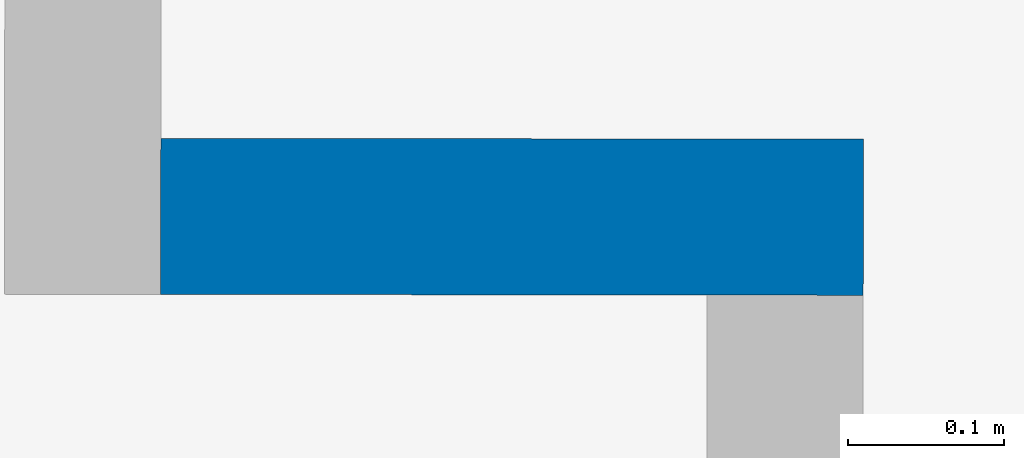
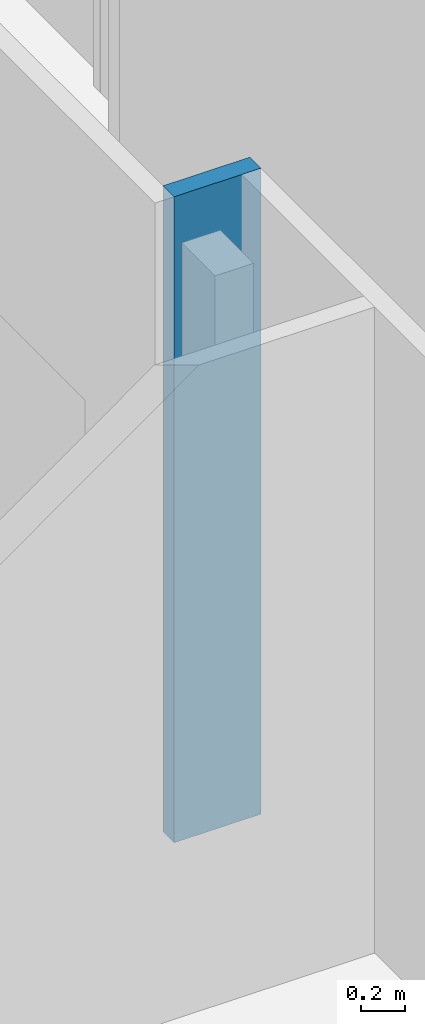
# One storey, part 82 of 101: 1 wall.
"""IFC2X3 building model written with IfcOpenShell, lengths in metres."""

from ifc_helpers import new_model, entity, si_unit, converted_unit, derived_unit, direction, frame, frame_2d, origin, place, context, subcontext, project, spatial, rectangle, extrude, material, layer, layer_set, layer_usage, type_object, element, save


model = new_model("IFC2X3")

# Units and contexts
model_context = context("Model", 3, precision=1e-05, world=origin(), true_north=direction((6.123233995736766e-17, 1.0)))
body_context = subcontext(model_context, "Body", "Model", "MODEL_VIEW")
ifc_project = project(units=[si_unit("LENGTHUNIT", "METRE"), si_unit("AREAUNIT", "SQUARE_METRE"), converted_unit("PLANEANGLEUNIT", "DEGREE", entity("IfcPlaneAngleMeasure", 0.017453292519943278), si_unit("PLANEANGLEUNIT", "RADIAN"), dimensions=[0, 0, 0, 0, 0, 0, 0]), derived_unit("THERMALTRANSMITTANCEUNIT", [(si_unit("MASSUNIT", "GRAM", prefix="KILO"), 1), (si_unit("THERMODYNAMICTEMPERATUREUNIT", "KELVIN"), -1), (si_unit("TIMEUNIT", "SECOND"), -3)])], contexts=[model_context])

# Site, building, storey
site_placement = place(None, frame((1253.6752467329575, 2072.143113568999, 91.49999999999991), z_axis=(0.0, 0.0, 1.0), x_axis=(0.7237211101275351, 0.6900925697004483, 0.0)))
site = spatial("IfcSite", under=ifc_project, at=site_placement, Name="Surface", CompositionType="ELEMENT")
building_placement = place(site_placement, origin())
building = spatial("IfcBuilding", under=site, at=building_placement, CompositionType="ELEMENT")
storey_placement = place(building_placement, origin())
storey = spatial("IfcBuildingStorey", under=building, at=storey_placement, Name="0- Rdc", CompositionType="ELEMENT", Elevation=-5.764692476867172e-13)

# Wall
ifc_material = material(Name="OMD_Béton blanc")
ifc_layer = layer(ifc_material, 0.1)
ifc_layer_set = layer_set([ifc_layer], Name="Mur de base:MUR 10")
ifc_layer_usage = layer_usage(ifc_layer_set, "AXIS2", "NEGATIVE", 0.05)
wall_type = type_object("IfcWallType", Name="Mur de base:MUR 10", PredefinedType="STANDARD", material=ifc_layer_set)
wall_placement = place(storey_placement, frame((186.1886231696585, -11.093227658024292, 0.0), z_axis=(0.0, 0.0, 1.0), x_axis=(-0.7228702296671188, 0.6909838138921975, 0.0)))
element("IfcWallStandardCase", 1, at=wall_placement, inside=storey, type_object=wall_type, material=ifc_layer_usage, Name="Mur de base:MUR 10", ObjectType="Mur de base:MUR 10", context=body_context, shape_type="SweptSolid", body=[
    extrude(rectangle(XDim=0.44999999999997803, YDim=0.10000000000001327, at=frame_2d((0.22499999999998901, -2.3175905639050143e-15), x_axis=(-1.0, 0.0))), origin(), (0.0, 0.0, 1.0), 3.5499999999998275),
])

save(model, "model.ifc")
